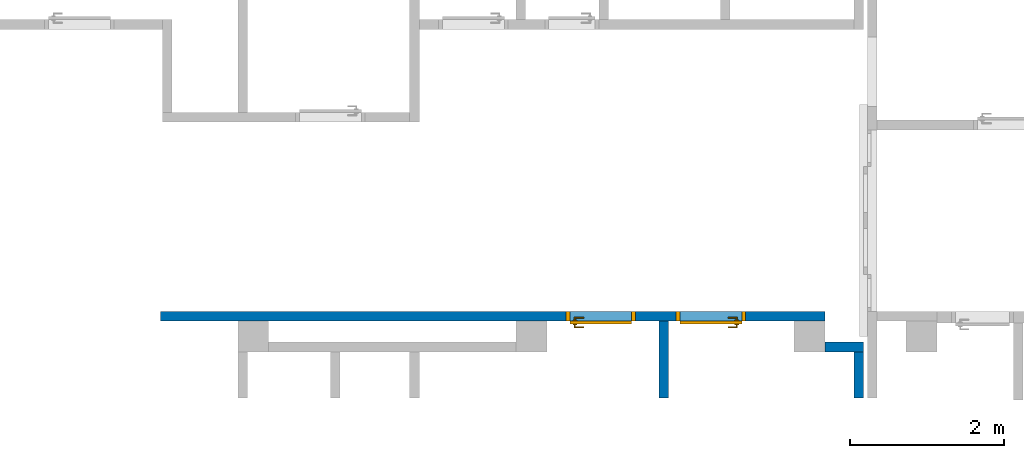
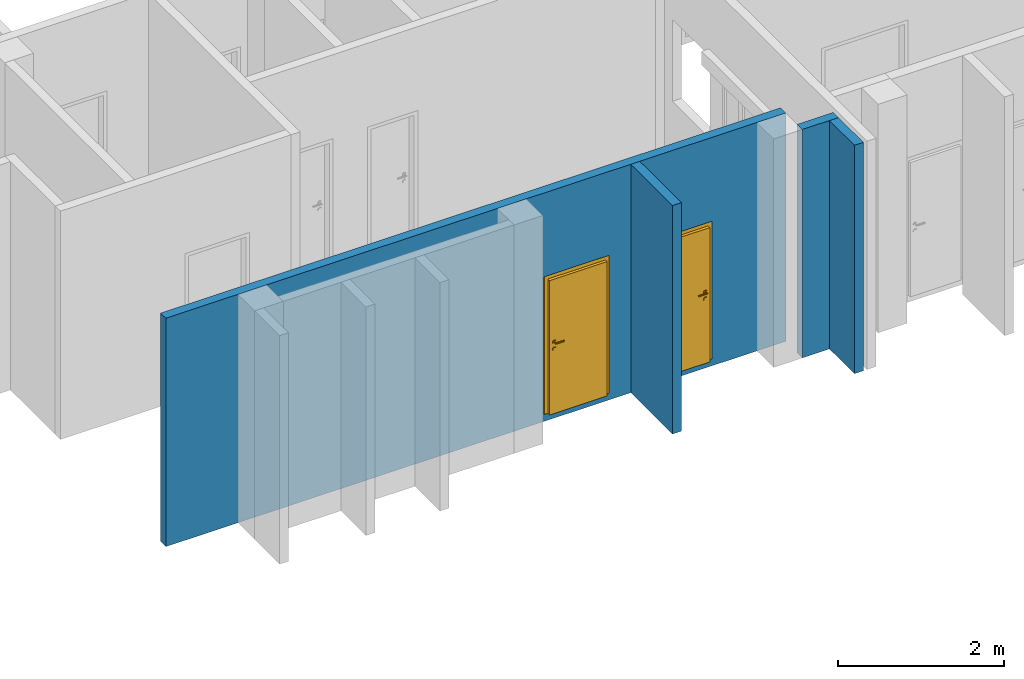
# One storey, part 12 of 37: 4 walls, 2 doors, 2 openings.
"""IFC4 building model written with IfcOpenShell, lengths in metres."""

from ifc_helpers import new_model, entity, si_unit, converted_unit, derived_unit, frame, frame_2d, origin, origin_with_axes, place, context, subcontext, project, spatial, polyline, rectangle, outline, extrude, closed_shell, open_shell, surface_model, source, transform, mapped, material, layer, layer_set, layer_usage, type_object, element, fill, save


model = new_model("IFC4")

# Units and contexts
model_context = context("Model", 3, precision=1e-05, world=origin())
body_context = subcontext(model_context, "Body", "Model", "MODEL_VIEW")
ifc_project = project(units=[si_unit("LENGTHUNIT", "METRE"), si_unit("AREAUNIT", "SQUARE_METRE"), si_unit("VOLUMEUNIT", "CUBIC_METRE"), si_unit("MASSUNIT", "GRAM", prefix="KILO"), converted_unit("PLANEANGLEUNIT", "DEGREE", entity("IfcPlaneAngleMeasure", 0.0174532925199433), si_unit("PLANEANGLEUNIT", "RADIAN"), dimensions=[0, 0, 0, 0, 0, 0, 0]), derived_unit("THERMALTRANSMITTANCEUNIT", [(si_unit("POWERUNIT", "WATT"), 1), (si_unit("THERMODYNAMICTEMPERATUREUNIT", "KELVIN"), -1), (si_unit("LENGTHUNIT", "METRE"), -2)]), derived_unit("VOLUMETRICFLOWRATEUNIT", [(si_unit("LENGTHUNIT", "METRE"), 3), (converted_unit("TIMEUNIT", "hour", entity("IfcTimeMeasure", 3600.0), si_unit("TIMEUNIT", "SECOND"), dimensions=[0, 0, 1, 0, 0, 0, 0]), -1), (si_unit("LENGTHUNIT", "METRE"), -1)])], contexts=[model_context])

# Site, building, storey
site_placement = place(None, origin())
site = spatial("IfcSite", under=ifc_project, at=site_placement, Name="3. ASŘ", CompositionType="ELEMENT")
building_placement = place(site_placement, origin())
building = spatial("IfcBuilding", under=site, at=building_placement, Name="Pavilon B", CompositionType="ELEMENT")
storey_placement = place(building_placement, origin())
storey = spatial("IfcBuildingStorey", under=building, at=storey_placement, Name="Půdorys 1.NP", CompositionType="ELEMENT", Elevation=0.0)

# Wall, openings, doors
ifc_material_1 = material(Name="ZDIVO Z CDm")
ifc_layer_1 = layer(ifc_material_1, 0.125)
ifc_layer_set_1 = layer_set([ifc_layer_1])
ifc_layer_usage_1 = layer_usage(ifc_layer_set_1, "AXIS2", "POSITIVE", 0.0)
wall_1_placement = place(storey_placement, frame((23.4, -27.4, -0.1)))
wall_1 = element("IfcWall", 1, at=wall_1_placement, inside=storey, material=ifc_layer_usage_1, Name="ZDIVO Z CDm", context=body_context, shape_type="SweptSolid", body=[
    extrude(rectangle(XDim=8.6, YDim=0.125, at=frame_2d((4.3, 0.0625), x_axis=(1.0, 0.0))), origin_with_axes(), (0.0, 0.0, 1.0), 3.35),
])
opening_1_placement = place(wall_1_placement, frame((5.25, 0.0, 0.1), z_axis=(0.0, 1.0, 0.0), x_axis=(0.0, 0.0, 1.0)))
opening_1 = element("IfcOpeningElement", 2, at=opening_1_placement, cuts=wall_1, Name="Dveřní otvor", ObjectType="Opening", context=body_context, shape_type="SweptSolid", body=[
    extrude(outline(polyline([(0.0, 0.9), (2.02, 0.9), (2.02, 0.0), (0.0, 0.0), (0.0, 0.9)])), origin_with_axes(), (0.0, 0.0, 1.0), 0.125),
])
opening_2_placement = place(wall_1_placement, frame((6.675, 0.0, 0.1), z_axis=(0.0, 1.0, 0.0), x_axis=(0.0, 0.0, 1.0)))
opening_2 = element("IfcOpeningElement", 3, at=opening_2_placement, cuts=wall_1, Name="Dveřní otvor", ObjectType="Opening", context=body_context, shape_type="SweptSolid", body=[
    extrude(outline(polyline([(0.0, 0.9), (2.02, 0.9), (2.02, 0.0), (0.0, 0.0), (0.0, 0.9)])), origin_with_axes(), (0.0, 0.0, 1.0), 0.125),
])
door_type_1 = type_object("IfcDoorType", Name="D101", OperationType="NOTDEFINED", ParameterTakesPrecedence=False, PredefinedType="DOOR")
shared_shape_1 = source(origin_with_axes(), body_context, "Body", "SurfaceModel", [
    surface_model("IfcShellBasedSurfaceModel", [(0.0, 0.125, 2.02), (0.0, 0.125, -7.65404249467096e-18), (0.05, 0.125, -7.65404249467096e-18), (0.05, 0.125, 2.02), (0.0, 0.0, 7.65404249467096e-18), (0.0, 2.41584530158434e-16, 2.02), (0.05, 2.41584530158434e-16, 2.02), (0.05, 0.0, 7.65404249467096e-18)], [closed_shell([[[0, 1, 2, 3]], [[4, 5, 6, 7]], [[1, 0, 5, 4]], [[2, 1, 4, 7]], [[3, 2, 7, 6]], [[0, 3, 6, 5]]], orient=[[False], [False], [False], [False], [False], [False]])]),
    surface_model("IfcShellBasedSurfaceModel", [(0.85, 0.125, 2.02), (0.85, 0.125, -7.65404249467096e-18), (0.9, 0.125, -7.65404249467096e-18), (0.9, 0.125, 2.02), (0.85, 0.0, 7.65404249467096e-18), (0.85, 2.41584530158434e-16, 2.02), (0.9, 2.41584530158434e-16, 2.02), (0.9, 0.0, 7.65404249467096e-18)], [closed_shell([[[0, 1, 2, 3]], [[4, 5, 6, 7]], [[1, 0, 5, 4]], [[2, 1, 4, 7]], [[3, 2, 7, 6]], [[0, 3, 6, 5]]], orient=[[False], [False], [False], [False], [False], [False]])]),
    surface_model("IfcShellBasedSurfaceModel", [(0.05, 0.125, 2.02), (0.05, 0.125, 1.97), (0.85, 0.125, 1.97), (0.85, 0.125, 2.02), (0.05, 2.41584530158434e-16, 1.97), (0.05, 2.41584530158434e-16, 2.02), (0.85, 2.41584530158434e-16, 2.02), (0.85, 2.41584530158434e-16, 1.97)], [closed_shell([[[0, 1, 2, 3]], [[4, 5, 6, 7]], [[1, 0, 5, 4]], [[2, 1, 4, 7]], [[3, 2, 7, 6]], [[0, 3, 6, 5]]], orient=[[False], [False], [False], [False], [False], [False]])]),
    surface_model("IfcShellBasedSurfaceModel", [(0.05, 0.165, 1.97), (0.05, 0.165, -1.25526296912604e-17), (0.85, 0.165, -1.25526296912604e-17), (0.85, 0.165, 1.97), (0.05, 0.125, -7.65404249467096e-18), (0.05, 0.125, 1.97), (0.85, 0.125, 1.97), (0.85, 0.125, -7.65404249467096e-18)], [closed_shell([[[0, 1, 2, 3]], [[4, 5, 6, 7]], [[1, 0, 5, 4]], [[2, 1, 4, 7]], [[3, 2, 7, 6]], [[0, 3, 6, 5]]], orient=[[False], [False], [False], [False], [False], [False]])]),
    surface_model("IfcShellBasedSurfaceModel", [(0.808815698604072, 0.125, 0.93625), (0.8125, 0.125, 0.95), (0.808815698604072, 0.125, 0.96375), (0.79875, 0.125, 0.973815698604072), (0.785, 0.125, 0.9775), (0.77125, 0.125, 0.973815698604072), (0.761184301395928, 0.125, 0.96375), (0.7575, 0.125, 0.95), (0.761184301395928, 0.125, 0.93625), (0.77125, 0.125, 0.926184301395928), (0.785, 0.125, 0.9225), (0.79875, 0.125, 0.926184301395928), (0.8125, 0.1125, 0.95), (0.808815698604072, 0.1125, 0.93625), (0.79875, 0.1125, 0.926184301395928), (0.785, 0.1125, 0.9225), (0.77125, 0.1125, 0.926184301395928), (0.761184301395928, 0.1125, 0.93625), (0.7575, 0.1125, 0.95), (0.761184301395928, 0.1125, 0.96375), (0.77125, 0.1125, 0.973815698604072), (0.785, 0.1125, 0.9775), (0.79875, 0.1125, 0.973815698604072), (0.808815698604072, 0.1125, 0.96375)], [closed_shell([[[0, 1, 2, 3, 4, 5, 6, 7, 8, 9, 10, 11]], [[12, 13, 14, 15, 16, 17, 18, 19, 20, 21, 22, 23]], [[1, 0, 13, 12]], [[2, 1, 12, 23]], [[3, 2, 23, 22]], [[4, 3, 22, 21]], [[5, 4, 21, 20]], [[6, 5, 20, 19]], [[7, 6, 19, 18]], [[8, 7, 18, 17]], [[9, 8, 17, 16]], [[10, 9, 16, 15]], [[11, 10, 15, 14]], [[0, 11, 14, 13]]], orient=[[False], [False], [False], [False], [False], [False], [False], [False], [False], [False], [False], [False], [False], [False]])]),
    surface_model("IfcShellBasedSurfaceModel", [(0.808815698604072, 0.125, 1.03625), (0.8125, 0.125, 1.05), (0.808815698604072, 0.125, 1.06375), (0.79875, 0.125, 1.07381569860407), (0.785, 0.125, 1.0775), (0.77125, 0.125, 1.07381569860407), (0.761184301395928, 0.125, 1.06375), (0.7575, 0.125, 1.05), (0.761184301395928, 0.125, 1.03625), (0.77125, 0.125, 1.02618430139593), (0.785, 0.125, 1.0225), (0.79875, 0.125, 1.02618430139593), (0.8125, 0.1125, 1.05), (0.808815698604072, 0.1125, 1.03625), (0.79875, 0.1125, 1.02618430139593), (0.785, 0.1125, 1.0225), (0.77125, 0.1125, 1.02618430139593), (0.761184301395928, 0.1125, 1.03625), (0.7575, 0.1125, 1.05), (0.761184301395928, 0.1125, 1.06375), (0.77125, 0.1125, 1.07381569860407), (0.785, 0.1125, 1.0775), (0.79875, 0.1125, 1.07381569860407), (0.808815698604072, 0.1125, 1.06375)], [closed_shell([[[0, 1, 2, 3, 4, 5, 6, 7, 8, 9, 10, 11]], [[12, 13, 14, 15, 16, 17, 18, 19, 20, 21, 22, 23]], [[1, 0, 13, 12]], [[2, 1, 12, 23]], [[3, 2, 23, 22]], [[4, 3, 22, 21]], [[5, 4, 21, 20]], [[6, 5, 20, 19]], [[7, 6, 19, 18]], [[8, 7, 18, 17]], [[9, 8, 17, 16]], [[10, 9, 16, 15]], [[11, 10, 15, 14]], [[0, 11, 14, 13]]], orient=[[False], [False], [False], [False], [False], [False], [False], [False], [False], [False], [False], [False], [False], [False]])]),
    surface_model("IfcShellBasedSurfaceModel", [(0.785, 0.125, 1.06), (0.78, 0.125, 1.05866025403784), (0.776339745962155, 0.125, 1.055), (0.775, 0.125, 1.05), (0.776339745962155, 0.125, 1.045), (0.78, 0.125, 1.04133974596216), (0.785, 0.125, 1.04), (0.79, 0.125, 1.04133974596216), (0.793660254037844, 0.125, 1.045), (0.795, 0.125, 1.05), (0.793660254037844, 0.125, 1.055), (0.79, 0.125, 1.05866025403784), (0.79, 0.0800000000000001, 1.05866025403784), (0.785, 0.0850000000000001, 1.06), (0.793660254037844, 0.0763397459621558, 1.055), (0.795, 0.0750000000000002, 1.05), (0.793660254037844, 0.0763397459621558, 1.045), (0.79, 0.0800000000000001, 1.04133974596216), (0.785, 0.0850000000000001, 1.04), (0.78, 0.0900000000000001, 1.04133974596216), (0.776339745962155, 0.0936602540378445, 1.045), (0.775, 0.0950000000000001, 1.05), (0.776339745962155, 0.0936602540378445, 1.055), (0.78, 0.0900000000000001, 1.05866025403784), (0.67, 0.0800000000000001, 1.05866025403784), (0.67, 0.0850000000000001, 1.06), (0.67, 0.0763397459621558, 1.055), (0.67, 0.0750000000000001, 1.05), (0.67, 0.0763397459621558, 1.045), (0.67, 0.0800000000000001, 1.04133974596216), (0.67, 0.0850000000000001, 1.04), (0.67, 0.0900000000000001, 1.04133974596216), (0.67, 0.0936602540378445, 1.045), (0.67, 0.0950000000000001, 1.05), (0.67, 0.0936602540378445, 1.055), (0.67, 0.0900000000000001, 1.05866025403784)], [open_shell([[[0, 1, 2, 3, 4, 5, 6, 7, 8, 9, 10, 11]], [[0, 11, 12, 13]], [[11, 10, 14, 12]], [[10, 9, 15, 14]], [[9, 8, 16, 15]], [[8, 7, 17, 16]], [[7, 6, 18, 17]], [[6, 5, 19, 18]], [[5, 4, 20, 19]], [[4, 3, 21, 20]], [[3, 2, 22, 21]], [[2, 1, 23, 22]], [[1, 0, 13, 23]], [[13, 12, 24, 25]], [[12, 14, 26, 24]], [[14, 15, 27, 26]], [[15, 16, 28, 27]], [[16, 17, 29, 28]], [[17, 18, 30, 29]], [[18, 19, 31, 30]], [[19, 20, 32, 31]], [[20, 21, 33, 32]], [[21, 22, 34, 33]], [[22, 23, 35, 34]], [[23, 13, 25, 35]]], orient=[[False], [False], [False], [False], [False], [False], [False], [False], [False], [False], [False], [False], [False], [False], [False], [False], [False], [False], [False], [False], [False], [False], [False], [False], [False]])]),
    surface_model("IfcShellBasedSurfaceModel", [(0.808815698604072, 0.165, 0.93625), (0.79875, 0.165, 0.926184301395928), (0.785, 0.165, 0.9225), (0.77125, 0.165, 0.926184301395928), (0.761184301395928, 0.165, 0.93625), (0.7575, 0.165, 0.95), (0.761184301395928, 0.165, 0.96375), (0.77125, 0.165, 0.973815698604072), (0.785, 0.165, 0.9775), (0.79875, 0.165, 0.973815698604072), (0.808815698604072, 0.165, 0.96375), (0.8125, 0.165, 0.95), (0.8125, 0.1775, 0.95), (0.808815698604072, 0.1775, 0.96375), (0.79875, 0.1775, 0.973815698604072), (0.785, 0.1775, 0.9775), (0.77125, 0.1775, 0.973815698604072), (0.761184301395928, 0.1775, 0.96375), (0.7575, 0.1775, 0.95), (0.761184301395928, 0.1775, 0.93625), (0.77125, 0.1775, 0.926184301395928), (0.785, 0.1775, 0.9225), (0.79875, 0.1775, 0.926184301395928), (0.808815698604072, 0.1775, 0.93625)], [closed_shell([[[0, 1, 2, 3, 4, 5, 6, 7, 8, 9, 10, 11]], [[12, 13, 14, 15, 16, 17, 18, 19, 20, 21, 22, 23]], [[11, 12, 23, 0]], [[10, 13, 12, 11]], [[9, 14, 13, 10]], [[8, 15, 14, 9]], [[7, 16, 15, 8]], [[6, 17, 16, 7]], [[5, 18, 17, 6]], [[4, 19, 18, 5]], [[3, 20, 19, 4]], [[2, 21, 20, 3]], [[1, 22, 21, 2]], [[0, 23, 22, 1]]], orient=[[False], [False], [False], [False], [False], [False], [False], [False], [False], [False], [False], [False], [False], [False]])]),
    surface_model("IfcShellBasedSurfaceModel", [(0.808815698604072, 0.165, 1.03625), (0.79875, 0.165, 1.02618430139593), (0.785, 0.165, 1.0225), (0.77125, 0.165, 1.02618430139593), (0.761184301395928, 0.165, 1.03625), (0.7575, 0.165, 1.05), (0.761184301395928, 0.165, 1.06375), (0.77125, 0.165, 1.07381569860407), (0.785, 0.165, 1.0775), (0.79875, 0.165, 1.07381569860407), (0.808815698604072, 0.165, 1.06375), (0.8125, 0.165, 1.05), (0.8125, 0.1775, 1.05), (0.808815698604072, 0.1775, 1.06375), (0.79875, 0.1775, 1.07381569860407), (0.785, 0.1775, 1.0775), (0.77125, 0.1775, 1.07381569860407), (0.761184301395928, 0.1775, 1.06375), (0.7575, 0.1775, 1.05), (0.761184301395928, 0.1775, 1.03625), (0.77125, 0.1775, 1.02618430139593), (0.785, 0.1775, 1.0225), (0.79875, 0.1775, 1.02618430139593), (0.808815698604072, 0.1775, 1.03625)], [closed_shell([[[0, 1, 2, 3, 4, 5, 6, 7, 8, 9, 10, 11]], [[12, 13, 14, 15, 16, 17, 18, 19, 20, 21, 22, 23]], [[11, 12, 23, 0]], [[10, 13, 12, 11]], [[9, 14, 13, 10]], [[8, 15, 14, 9]], [[7, 16, 15, 8]], [[6, 17, 16, 7]], [[5, 18, 17, 6]], [[4, 19, 18, 5]], [[3, 20, 19, 4]], [[2, 21, 20, 3]], [[1, 22, 21, 2]], [[0, 23, 22, 1]]], orient=[[False], [False], [False], [False], [False], [False], [False], [False], [False], [False], [False], [False], [False], [False]])]),
    surface_model("IfcShellBasedSurfaceModel", [(0.785, 0.165, 1.06), (0.79, 0.165, 1.05866025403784), (0.793660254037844, 0.165, 1.055), (0.795, 0.165, 1.05), (0.793660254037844, 0.165, 1.045), (0.79, 0.165, 1.04133974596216), (0.785, 0.165, 1.04), (0.78, 0.165, 1.04133974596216), (0.776339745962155, 0.165, 1.045), (0.775, 0.165, 1.05), (0.776339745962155, 0.165, 1.055), (0.78, 0.165, 1.05866025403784), (0.785, 0.205, 1.06), (0.79, 0.21, 1.05866025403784), (0.793660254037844, 0.213660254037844, 1.055), (0.795, 0.215, 1.05), (0.793660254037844, 0.213660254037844, 1.045), (0.79, 0.21, 1.04133974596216), (0.785, 0.205, 1.04), (0.78, 0.2, 1.04133974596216), (0.776339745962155, 0.196339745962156, 1.045), (0.775, 0.195, 1.05), (0.776339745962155, 0.196339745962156, 1.055), (0.78, 0.2, 1.05866025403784), (0.67, 0.205, 1.06), (0.67, 0.21, 1.05866025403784), (0.67, 0.213660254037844, 1.055), (0.67, 0.215, 1.05), (0.67, 0.213660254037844, 1.045), (0.67, 0.21, 1.04133974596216), (0.67, 0.205, 1.04), (0.67, 0.2, 1.04133974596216), (0.67, 0.196339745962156, 1.045), (0.67, 0.195, 1.05), (0.67, 0.196339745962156, 1.055), (0.67, 0.2, 1.05866025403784)], [open_shell([[[0, 1, 2, 3, 4, 5, 6, 7, 8, 9, 10, 11]], [[0, 12, 13, 1]], [[1, 13, 14, 2]], [[2, 14, 15, 3]], [[3, 15, 16, 4]], [[4, 16, 17, 5]], [[5, 17, 18, 6]], [[6, 18, 19, 7]], [[7, 19, 20, 8]], [[8, 20, 21, 9]], [[9, 21, 22, 10]], [[10, 22, 23, 11]], [[11, 23, 12, 0]], [[12, 24, 25, 13]], [[13, 25, 26, 14]], [[14, 26, 27, 15]], [[15, 27, 28, 16]], [[16, 28, 29, 17]], [[17, 29, 30, 18]], [[18, 30, 31, 19]], [[19, 31, 32, 20]], [[20, 32, 33, 21]], [[21, 33, 34, 22]], [[22, 34, 35, 23]], [[23, 35, 24, 12]]], orient=[[False], [False], [False], [False], [False], [False], [False], [False], [False], [False], [False], [False], [False], [False], [False], [False], [False], [False], [False], [False], [False], [False], [False], [False], [False]])]),
])
door_1_placement = place(opening_1_placement, frame((0.0, 0.9, 0.125), z_axis=(1.0, 0.0, 0.0), x_axis=(0.0, -1.0, 1.22464679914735e-16)))
door_1 = element("IfcDoor", 4, at=door_1_placement, inside=storey, type_object=door_type_1, Name="D101", OverallHeight=2.02, OverallWidth=0.9, context=body_context, shape_type="MappedRepresentation", body=[
    mapped(shared_shape_1, transform((0.0, 0.0, 0.0), x_axis=(1.0, 0.0, 0.0), y_axis=(0.0, 1.0, 0.0), z_axis=(0.0, 0.0, 1.0), scale=1.0)),
])
fill(opening_1, door_1)
door_type_2 = type_object("IfcDoorType", Name="D101", OperationType="NOTDEFINED", ParameterTakesPrecedence=False, PredefinedType="DOOR")
shared_shape_2 = source(origin_with_axes(), body_context, "Body", "SurfaceModel", [
    surface_model("IfcShellBasedSurfaceModel", [(0.0, 0.125, 2.02), (0.0, 0.125, -7.65404249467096e-18), (0.05, 0.125, -7.65404249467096e-18), (0.05, 0.125, 2.02), (0.0, 0.0, 7.65404249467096e-18), (0.0, 2.41584530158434e-16, 2.02), (0.05, 2.41584530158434e-16, 2.02), (0.05, 0.0, 7.65404249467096e-18)], [closed_shell([[[0, 1, 2, 3]], [[4, 5, 6, 7]], [[1, 0, 5, 4]], [[2, 1, 4, 7]], [[3, 2, 7, 6]], [[0, 3, 6, 5]]], orient=[[False], [False], [False], [False], [False], [False]])]),
    surface_model("IfcShellBasedSurfaceModel", [(0.85, 0.125, 2.02), (0.85, 0.125, -7.65404249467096e-18), (0.9, 0.125, -7.65404249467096e-18), (0.9, 0.125, 2.02), (0.85, 0.0, 7.65404249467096e-18), (0.85, 2.41584530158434e-16, 2.02), (0.9, 2.41584530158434e-16, 2.02), (0.9, 0.0, 7.65404249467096e-18)], [closed_shell([[[0, 1, 2, 3]], [[4, 5, 6, 7]], [[1, 0, 5, 4]], [[2, 1, 4, 7]], [[3, 2, 7, 6]], [[0, 3, 6, 5]]], orient=[[False], [False], [False], [False], [False], [False]])]),
    surface_model("IfcShellBasedSurfaceModel", [(0.05, 0.125, 2.02), (0.05, 0.125, 1.97), (0.85, 0.125, 1.97), (0.85, 0.125, 2.02), (0.05, 2.41584530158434e-16, 1.97), (0.05, 2.41584530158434e-16, 2.02), (0.85, 2.41584530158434e-16, 2.02), (0.85, 2.41584530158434e-16, 1.97)], [closed_shell([[[0, 1, 2, 3]], [[4, 5, 6, 7]], [[1, 0, 5, 4]], [[2, 1, 4, 7]], [[3, 2, 7, 6]], [[0, 3, 6, 5]]], orient=[[False], [False], [False], [False], [False], [False]])]),
    surface_model("IfcShellBasedSurfaceModel", [(0.05, 0.165, 1.97), (0.05, 0.165, -1.25526296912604e-17), (0.85, 0.165, -1.25526296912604e-17), (0.85, 0.165, 1.97), (0.05, 0.125, -7.65404249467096e-18), (0.05, 0.125, 1.97), (0.85, 0.125, 1.97), (0.85, 0.125, -7.65404249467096e-18)], [closed_shell([[[0, 1, 2, 3]], [[4, 5, 6, 7]], [[1, 0, 5, 4]], [[2, 1, 4, 7]], [[3, 2, 7, 6]], [[0, 3, 6, 5]]], orient=[[False], [False], [False], [False], [False], [False]])]),
    surface_model("IfcShellBasedSurfaceModel", [(0.808815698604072, 0.125, 0.93625), (0.8125, 0.125, 0.95), (0.808815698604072, 0.125, 0.96375), (0.79875, 0.125, 0.973815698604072), (0.785, 0.125, 0.9775), (0.77125, 0.125, 0.973815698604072), (0.761184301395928, 0.125, 0.96375), (0.7575, 0.125, 0.95), (0.761184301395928, 0.125, 0.93625), (0.77125, 0.125, 0.926184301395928), (0.785, 0.125, 0.9225), (0.79875, 0.125, 0.926184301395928), (0.8125, 0.1125, 0.95), (0.808815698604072, 0.1125, 0.93625), (0.79875, 0.1125, 0.926184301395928), (0.785, 0.1125, 0.9225), (0.77125, 0.1125, 0.926184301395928), (0.761184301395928, 0.1125, 0.93625), (0.7575, 0.1125, 0.95), (0.761184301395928, 0.1125, 0.96375), (0.77125, 0.1125, 0.973815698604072), (0.785, 0.1125, 0.9775), (0.79875, 0.1125, 0.973815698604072), (0.808815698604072, 0.1125, 0.96375)], [closed_shell([[[0, 1, 2, 3, 4, 5, 6, 7, 8, 9, 10, 11]], [[12, 13, 14, 15, 16, 17, 18, 19, 20, 21, 22, 23]], [[1, 0, 13, 12]], [[2, 1, 12, 23]], [[3, 2, 23, 22]], [[4, 3, 22, 21]], [[5, 4, 21, 20]], [[6, 5, 20, 19]], [[7, 6, 19, 18]], [[8, 7, 18, 17]], [[9, 8, 17, 16]], [[10, 9, 16, 15]], [[11, 10, 15, 14]], [[0, 11, 14, 13]]], orient=[[False], [False], [False], [False], [False], [False], [False], [False], [False], [False], [False], [False], [False], [False]])]),
    surface_model("IfcShellBasedSurfaceModel", [(0.808815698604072, 0.125, 1.03625), (0.8125, 0.125, 1.05), (0.808815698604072, 0.125, 1.06375), (0.79875, 0.125, 1.07381569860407), (0.785, 0.125, 1.0775), (0.77125, 0.125, 1.07381569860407), (0.761184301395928, 0.125, 1.06375), (0.7575, 0.125, 1.05), (0.761184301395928, 0.125, 1.03625), (0.77125, 0.125, 1.02618430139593), (0.785, 0.125, 1.0225), (0.79875, 0.125, 1.02618430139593), (0.8125, 0.1125, 1.05), (0.808815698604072, 0.1125, 1.03625), (0.79875, 0.1125, 1.02618430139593), (0.785, 0.1125, 1.0225), (0.77125, 0.1125, 1.02618430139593), (0.761184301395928, 0.1125, 1.03625), (0.7575, 0.1125, 1.05), (0.761184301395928, 0.1125, 1.06375), (0.77125, 0.1125, 1.07381569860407), (0.785, 0.1125, 1.0775), (0.79875, 0.1125, 1.07381569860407), (0.808815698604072, 0.1125, 1.06375)], [closed_shell([[[0, 1, 2, 3, 4, 5, 6, 7, 8, 9, 10, 11]], [[12, 13, 14, 15, 16, 17, 18, 19, 20, 21, 22, 23]], [[1, 0, 13, 12]], [[2, 1, 12, 23]], [[3, 2, 23, 22]], [[4, 3, 22, 21]], [[5, 4, 21, 20]], [[6, 5, 20, 19]], [[7, 6, 19, 18]], [[8, 7, 18, 17]], [[9, 8, 17, 16]], [[10, 9, 16, 15]], [[11, 10, 15, 14]], [[0, 11, 14, 13]]], orient=[[False], [False], [False], [False], [False], [False], [False], [False], [False], [False], [False], [False], [False], [False]])]),
    surface_model("IfcShellBasedSurfaceModel", [(0.785, 0.125, 1.06), (0.78, 0.125, 1.05866025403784), (0.776339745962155, 0.125, 1.055), (0.775, 0.125, 1.05), (0.776339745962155, 0.125, 1.045), (0.78, 0.125, 1.04133974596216), (0.785, 0.125, 1.04), (0.79, 0.125, 1.04133974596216), (0.793660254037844, 0.125, 1.045), (0.795, 0.125, 1.05), (0.793660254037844, 0.125, 1.055), (0.79, 0.125, 1.05866025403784), (0.79, 0.0800000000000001, 1.05866025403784), (0.785, 0.0850000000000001, 1.06), (0.793660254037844, 0.0763397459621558, 1.055), (0.795, 0.0750000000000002, 1.05), (0.793660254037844, 0.0763397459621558, 1.045), (0.79, 0.0800000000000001, 1.04133974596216), (0.785, 0.0850000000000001, 1.04), (0.78, 0.0900000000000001, 1.04133974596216), (0.776339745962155, 0.0936602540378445, 1.045), (0.775, 0.0950000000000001, 1.05), (0.776339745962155, 0.0936602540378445, 1.055), (0.78, 0.0900000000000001, 1.05866025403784), (0.67, 0.0800000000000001, 1.05866025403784), (0.67, 0.0850000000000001, 1.06), (0.67, 0.0763397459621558, 1.055), (0.67, 0.0750000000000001, 1.05), (0.67, 0.0763397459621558, 1.045), (0.67, 0.0800000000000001, 1.04133974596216), (0.67, 0.0850000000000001, 1.04), (0.67, 0.0900000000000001, 1.04133974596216), (0.67, 0.0936602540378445, 1.045), (0.67, 0.0950000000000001, 1.05), (0.67, 0.0936602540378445, 1.055), (0.67, 0.0900000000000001, 1.05866025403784)], [open_shell([[[0, 1, 2, 3, 4, 5, 6, 7, 8, 9, 10, 11]], [[0, 11, 12, 13]], [[11, 10, 14, 12]], [[10, 9, 15, 14]], [[9, 8, 16, 15]], [[8, 7, 17, 16]], [[7, 6, 18, 17]], [[6, 5, 19, 18]], [[5, 4, 20, 19]], [[4, 3, 21, 20]], [[3, 2, 22, 21]], [[2, 1, 23, 22]], [[1, 0, 13, 23]], [[13, 12, 24, 25]], [[12, 14, 26, 24]], [[14, 15, 27, 26]], [[15, 16, 28, 27]], [[16, 17, 29, 28]], [[17, 18, 30, 29]], [[18, 19, 31, 30]], [[19, 20, 32, 31]], [[20, 21, 33, 32]], [[21, 22, 34, 33]], [[22, 23, 35, 34]], [[23, 13, 25, 35]]], orient=[[False], [False], [False], [False], [False], [False], [False], [False], [False], [False], [False], [False], [False], [False], [False], [False], [False], [False], [False], [False], [False], [False], [False], [False], [False]])]),
    surface_model("IfcShellBasedSurfaceModel", [(0.808815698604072, 0.165, 0.93625), (0.79875, 0.165, 0.926184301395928), (0.785, 0.165, 0.9225), (0.77125, 0.165, 0.926184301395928), (0.761184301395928, 0.165, 0.93625), (0.7575, 0.165, 0.95), (0.761184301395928, 0.165, 0.96375), (0.77125, 0.165, 0.973815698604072), (0.785, 0.165, 0.9775), (0.79875, 0.165, 0.973815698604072), (0.808815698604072, 0.165, 0.96375), (0.8125, 0.165, 0.95), (0.8125, 0.1775, 0.95), (0.808815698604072, 0.1775, 0.96375), (0.79875, 0.1775, 0.973815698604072), (0.785, 0.1775, 0.9775), (0.77125, 0.1775, 0.973815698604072), (0.761184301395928, 0.1775, 0.96375), (0.7575, 0.1775, 0.95), (0.761184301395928, 0.1775, 0.93625), (0.77125, 0.1775, 0.926184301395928), (0.785, 0.1775, 0.9225), (0.79875, 0.1775, 0.926184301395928), (0.808815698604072, 0.1775, 0.93625)], [closed_shell([[[0, 1, 2, 3, 4, 5, 6, 7, 8, 9, 10, 11]], [[12, 13, 14, 15, 16, 17, 18, 19, 20, 21, 22, 23]], [[11, 12, 23, 0]], [[10, 13, 12, 11]], [[9, 14, 13, 10]], [[8, 15, 14, 9]], [[7, 16, 15, 8]], [[6, 17, 16, 7]], [[5, 18, 17, 6]], [[4, 19, 18, 5]], [[3, 20, 19, 4]], [[2, 21, 20, 3]], [[1, 22, 21, 2]], [[0, 23, 22, 1]]], orient=[[False], [False], [False], [False], [False], [False], [False], [False], [False], [False], [False], [False], [False], [False]])]),
    surface_model("IfcShellBasedSurfaceModel", [(0.808815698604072, 0.165, 1.03625), (0.79875, 0.165, 1.02618430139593), (0.785, 0.165, 1.0225), (0.77125, 0.165, 1.02618430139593), (0.761184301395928, 0.165, 1.03625), (0.7575, 0.165, 1.05), (0.761184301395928, 0.165, 1.06375), (0.77125, 0.165, 1.07381569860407), (0.785, 0.165, 1.0775), (0.79875, 0.165, 1.07381569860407), (0.808815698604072, 0.165, 1.06375), (0.8125, 0.165, 1.05), (0.8125, 0.1775, 1.05), (0.808815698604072, 0.1775, 1.06375), (0.79875, 0.1775, 1.07381569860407), (0.785, 0.1775, 1.0775), (0.77125, 0.1775, 1.07381569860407), (0.761184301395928, 0.1775, 1.06375), (0.7575, 0.1775, 1.05), (0.761184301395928, 0.1775, 1.03625), (0.77125, 0.1775, 1.02618430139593), (0.785, 0.1775, 1.0225), (0.79875, 0.1775, 1.02618430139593), (0.808815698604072, 0.1775, 1.03625)], [closed_shell([[[0, 1, 2, 3, 4, 5, 6, 7, 8, 9, 10, 11]], [[12, 13, 14, 15, 16, 17, 18, 19, 20, 21, 22, 23]], [[11, 12, 23, 0]], [[10, 13, 12, 11]], [[9, 14, 13, 10]], [[8, 15, 14, 9]], [[7, 16, 15, 8]], [[6, 17, 16, 7]], [[5, 18, 17, 6]], [[4, 19, 18, 5]], [[3, 20, 19, 4]], [[2, 21, 20, 3]], [[1, 22, 21, 2]], [[0, 23, 22, 1]]], orient=[[False], [False], [False], [False], [False], [False], [False], [False], [False], [False], [False], [False], [False], [False]])]),
    surface_model("IfcShellBasedSurfaceModel", [(0.785, 0.165, 1.06), (0.79, 0.165, 1.05866025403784), (0.793660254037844, 0.165, 1.055), (0.795, 0.165, 1.05), (0.793660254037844, 0.165, 1.045), (0.79, 0.165, 1.04133974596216), (0.785, 0.165, 1.04), (0.78, 0.165, 1.04133974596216), (0.776339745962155, 0.165, 1.045), (0.775, 0.165, 1.05), (0.776339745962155, 0.165, 1.055), (0.78, 0.165, 1.05866025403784), (0.785, 0.205, 1.06), (0.79, 0.21, 1.05866025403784), (0.793660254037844, 0.213660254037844, 1.055), (0.795, 0.215, 1.05), (0.793660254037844, 0.213660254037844, 1.045), (0.79, 0.21, 1.04133974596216), (0.785, 0.205, 1.04), (0.78, 0.2, 1.04133974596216), (0.776339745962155, 0.196339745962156, 1.045), (0.775, 0.195, 1.05), (0.776339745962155, 0.196339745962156, 1.055), (0.78, 0.2, 1.05866025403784), (0.67, 0.205, 1.06), (0.67, 0.21, 1.05866025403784), (0.67, 0.213660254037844, 1.055), (0.67, 0.215, 1.05), (0.67, 0.213660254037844, 1.045), (0.67, 0.21, 1.04133974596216), (0.67, 0.205, 1.04), (0.67, 0.2, 1.04133974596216), (0.67, 0.196339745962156, 1.045), (0.67, 0.195, 1.05), (0.67, 0.196339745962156, 1.055), (0.67, 0.2, 1.05866025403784)], [open_shell([[[0, 1, 2, 3, 4, 5, 6, 7, 8, 9, 10, 11]], [[0, 12, 13, 1]], [[1, 13, 14, 2]], [[2, 14, 15, 3]], [[3, 15, 16, 4]], [[4, 16, 17, 5]], [[5, 17, 18, 6]], [[6, 18, 19, 7]], [[7, 19, 20, 8]], [[8, 20, 21, 9]], [[9, 21, 22, 10]], [[10, 22, 23, 11]], [[11, 23, 12, 0]], [[12, 24, 25, 13]], [[13, 25, 26, 14]], [[14, 26, 27, 15]], [[15, 27, 28, 16]], [[16, 28, 29, 17]], [[17, 29, 30, 18]], [[18, 30, 31, 19]], [[19, 31, 32, 20]], [[20, 32, 33, 21]], [[21, 33, 34, 22]], [[22, 34, 35, 23]], [[23, 35, 24, 12]]], orient=[[False], [False], [False], [False], [False], [False], [False], [False], [False], [False], [False], [False], [False], [False], [False], [False], [False], [False], [False], [False], [False], [False], [False], [False], [False]])]),
])
door_2_placement = place(opening_2_placement, frame((0.0, 0.0, 0.125), z_axis=(1.0, 0.0, 0.0), x_axis=(0.0, 1.0, -1.22464679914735e-16)))
door_2 = element("IfcDoor", 5, at=door_2_placement, inside=storey, type_object=door_type_2, Name="D101", OverallHeight=2.02, OverallWidth=0.9, context=body_context, shape_type="MappedRepresentation", body=[
    mapped(shared_shape_2, transform((0.0, 0.0, 0.0), x_axis=(1.0, 0.0, 0.0), y_axis=(0.0, -1.0, 0.0), z_axis=(0.0, 0.0, 1.0), scale=1.0)),
])
fill(opening_2, door_2)

# Walls
ifc_material_2 = material(Name="ZDIVO Z CDm")
ifc_layer_2 = layer(ifc_material_2, 0.125)
ifc_layer_set_2 = layer_set([ifc_layer_2])
ifc_layer_usage_2 = layer_usage(ifc_layer_set_2, "AXIS2", "POSITIVE", 0.0)
wall_2_placement = place(storey_placement, frame((32.5, -28.4, -0.1), z_axis=(0.0, 0.0, 1.0), x_axis=(0.0, 1.0, 0.0)))
element("IfcWall", 6, at=wall_2_placement, inside=storey, material=ifc_layer_usage_2, Name="ZDIVO Z CDm", context=body_context, shape_type="SweptSolid", body=[
    extrude(rectangle(XDim=0.600000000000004, YDim=0.125, at=frame_2d((0.300000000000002, 0.0625), x_axis=(1.0, 0.0))), origin_with_axes(), (0.0, 0.0, 1.0), 3.35),
])
ifc_material_3 = material(Name="ZDIVO Z CDm")
ifc_layer_3 = layer(ifc_material_3, 0.125)
ifc_layer_set_3 = layer_set([ifc_layer_3])
ifc_layer_usage_3 = layer_usage(ifc_layer_set_3, "AXIS2", "POSITIVE", 0.0)
wall_3_placement = place(storey_placement, frame((32.5, -27.675, -0.1), z_axis=(0.0, 0.0, 1.0), x_axis=(-1.0, 0.0, 0.0)))
element("IfcWall", 7, at=wall_3_placement, inside=storey, material=ifc_layer_usage_3, Name="ZDIVO Z CDm", context=body_context, shape_type="SweptSolid", body=[
    extrude(rectangle(XDim=0.5, YDim=0.125, at=frame_2d((0.25, 0.0625), x_axis=(1.0, 0.0))), origin_with_axes(), (0.0, 0.0, 1.0), 3.35),
])
ifc_material_4 = material(Name="ZDIVO Z CDm")
ifc_layer_4 = layer(ifc_material_4, 0.125)
ifc_layer_set_4 = layer_set([ifc_layer_4])
ifc_layer_usage_4 = layer_usage(ifc_layer_set_4, "AXIS2", "POSITIVE", 0.0)
wall_4_placement = place(storey_placement, frame((29.975, -28.4, -0.1), z_axis=(0.0, 0.0, 1.0), x_axis=(0.0, 1.0, 0.0)))
element("IfcWall", 8, at=wall_4_placement, inside=storey, material=ifc_layer_usage_4, Name="ZDIVO Z CDm", context=body_context, shape_type="SweptSolid", body=[
    extrude(rectangle(XDim=1.0, YDim=0.125, at=frame_2d((0.500000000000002, 0.0625), x_axis=(1.0, 0.0))), origin_with_axes(), (0.0, 0.0, 1.0), 3.35),
])

save(model, "model.ifc")
